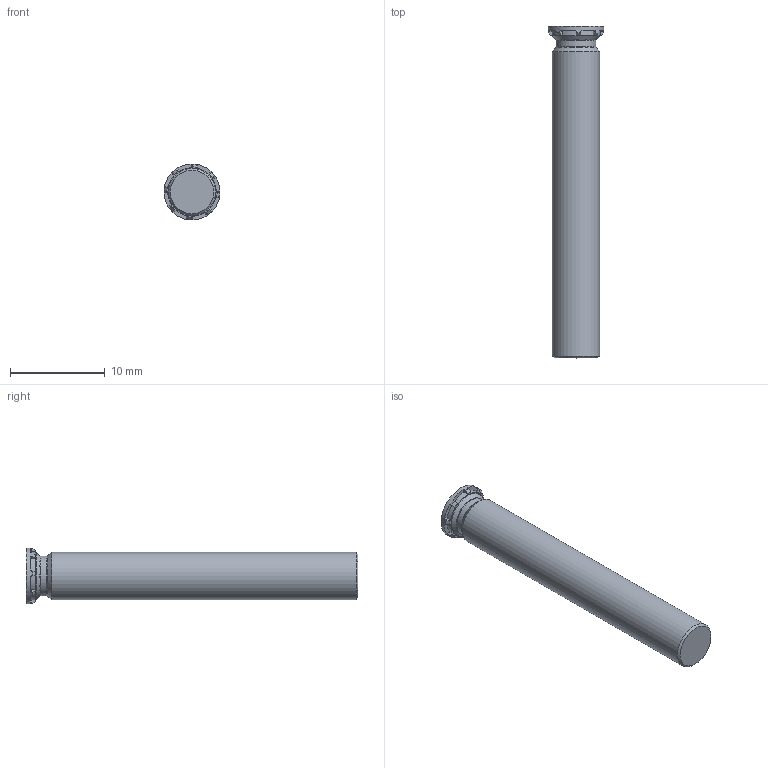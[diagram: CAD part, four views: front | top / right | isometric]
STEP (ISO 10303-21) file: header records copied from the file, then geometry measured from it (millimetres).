
FILE_DESCRIPTION(/* description */ (''),/* implementation_level */ '2;1');
FILE_NAME(/* name */ 'C:\Users\keval.kumar\Desktop\Fastit\Clinch Screw- Reduced FH Range\M5\Clinch Screw-Reduced FH Range_M5x35.stp',/* time_stamp */ '2024-03-12T14:09:07+06:00',/* author */ ('keval.kumar'),/* organization */ (''),/* preprocessor_version */ 'ST-DEVELOPER v18.1',/* originating_system */ 'Autodesk Inventor 2022',/* authorisation */ '');
FILE_SCHEMA (('AUTOMOTIVE_DESIGN { 1 0 10303 214 3 1 1 }'));
Length unit declared in the file: millimetre
Products named in the file (1): Clinch Screw-Reduced FH Range_M5x35
Bounding box: 5.9 x 35 x 5.9 mm (x, y, z)
Volume: 684.3 mm3; surface area: 607.2 mm2
Topology: 1 solids, 1 shells, 68 faces, 193 edges, 128 vertices
Faces by surface type: plane 43, cylinder 12, cone 11, torus 2
Full cylindrical faces by diameter (mm): 4.2 x1, 4.9 x1, 5 x1, 5.9 x1
Entity records: 2286 total; most frequent: DIRECTION 413, CARTESIAN_POINT 406, ORIENTED_EDGE 386, EDGE_CURVE 193, AXIS2_PLACEMENT_3D 159, VERTEX_POINT 128, LINE 95, VECTOR 95
